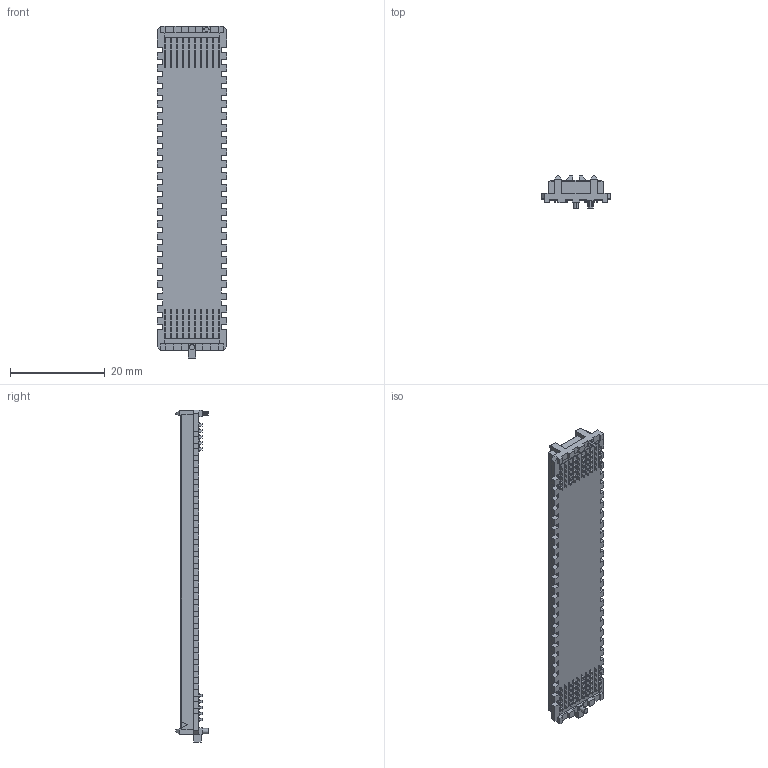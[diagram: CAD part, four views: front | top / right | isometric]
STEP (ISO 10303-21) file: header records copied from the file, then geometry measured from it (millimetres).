
FILE_DESCRIPTION((''),'2;1');
FILE_NAME('459705115','2016-04-13T',('me'),(''),'PRO/ENGINEER BY PARAMETRIC TECHNOLOGY CORPORATION, 2012310','PRO/ENGINEER BY PARAMETRIC TECHNOLOGY CORPORATION, 2012310','');
FILE_SCHEMA(('CONFIG_CONTROL_DESIGN'));
Length unit declared in the file: inch
Products named in the file (1): 459705115
Bounding box: 14.68 x 6.88 x 70.08 mm (x, y, z)
Volume: 2312.5 mm3; surface area: 4168.7 mm2
Topology: 1 solids, 1 shells, 1552 faces, 5300 edges, 3856 vertices
Faces by surface type: plane 1445, cylinder 107
Entity records: 56505 total; most frequent: CARTESIAN_POINT 10605, DIRECTION 9224, ORIENTED_EDGE 8592, EDGE_CURVE 4296, VECTOR 4082, LINE 4082, VERTEX_POINT 2852, AXIS2_PLACEMENT_3D 2571
